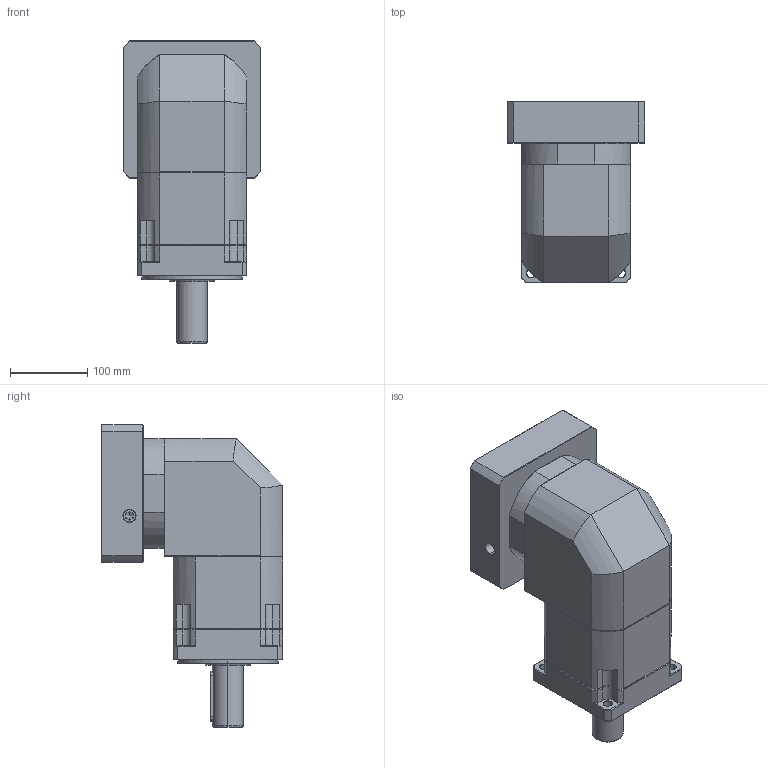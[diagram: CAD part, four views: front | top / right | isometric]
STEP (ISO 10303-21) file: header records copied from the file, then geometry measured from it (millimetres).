
FILE_DESCRIPTION (( 'STEP AP214' ), '1' );
FILE_NAME ('ZBR142A-D40-L2-P2-32-150-185-M10.step', '2023-09-02T07:12:36', ( '' ), ( '' ), 'SwSTEP 2.0', 'SolidWorks 2016', '' );
FILE_SCHEMA (( 'AUTOMOTIVE_DESIGN' ));
Length unit declared in the file: millimetre
Products named in the file (1): ZBR142A-D40-L2-P2-32-150-185-M10
Bounding box: 178 x 235 x 391.7 mm (x, y, z)
Volume: 6786098.3 mm3; surface area: 449412.6 mm2
Topology: 6 solids, 6 shells, 2312 faces, 6073 edges, 3868 vertices
Faces by surface type: plane 1120, cylinder 424, bspline 414, cone 332, torus 22
Entity records: 130443 total; most frequent: CARTESIAN_POINT 51486, ORIENTED_EDGE 12086, DIRECTION 9513, EDGE_CURVE 6043, LINE 3903, VECTOR 3903, VERTEX_POINT 3868, AXIS2_PLACEMENT_3D 2805
